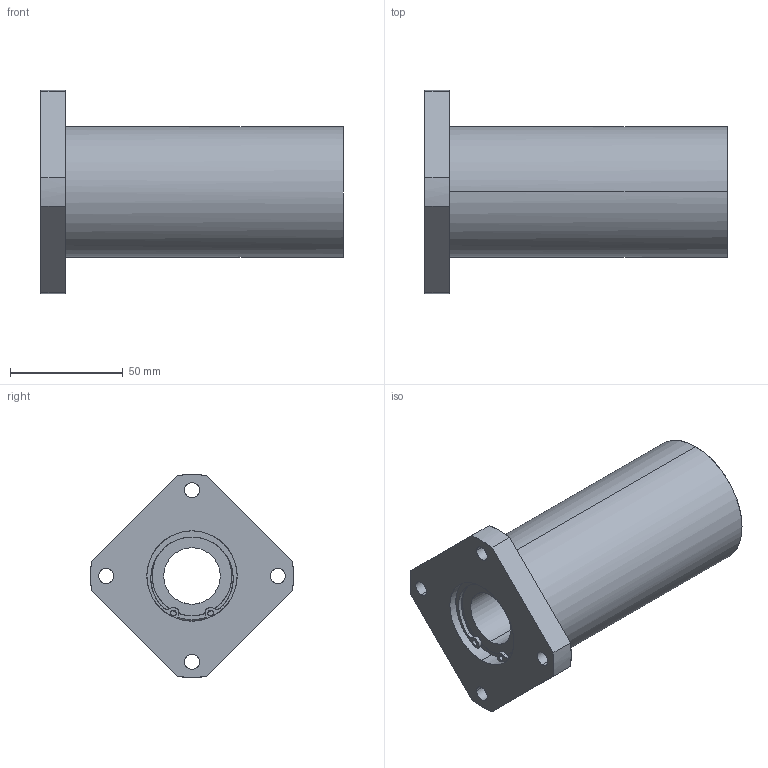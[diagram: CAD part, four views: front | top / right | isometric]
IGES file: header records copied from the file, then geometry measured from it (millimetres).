
Global section: file name: No Iges File Name specified; native system: AutoDesk Inventor R11.0; preprocessor: AutoDesk Inventor Iges Exporter R11.0; author: No Author specified; organization: No Organization specified; date: 20170921.175023; units: millimetre
Bounding box: 134 x 89.99 x 89.99 mm (x, y, z)
Surface area: 48518.3 mm2 (no closed solid volume)
Topology: 0 solids, 0 shells, 92 faces, 712 edges, 712 vertices
Faces by surface type: bspline 92
